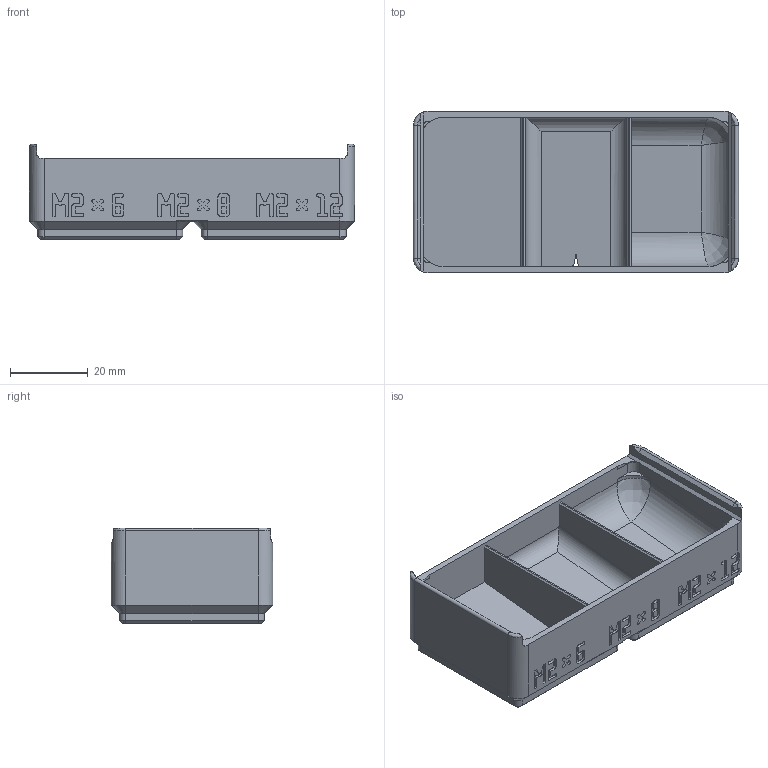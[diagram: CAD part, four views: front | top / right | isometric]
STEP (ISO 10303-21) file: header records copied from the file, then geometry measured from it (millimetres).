
FILE_DESCRIPTION(('Open CASCADE Model'),'2;1');
FILE_NAME('Open CASCADE Shape Model','2026-11-03T17:57:27',('Author'),( 'Open CASCADE'),'Open CASCADE STEP processor 8.0','build123d', 'Unknown');
FILE_SCHEMA(('AUTOMOTIVE_DESIGN { 1 0 10303 214 1 1 1 1 }'));
Products named in the file (1): COMPOUND
Bounding box: 83.5 x 41.5 x 24.55 mm (x, y, z)
Volume: 29619.6 mm3; surface area: 17274.6 mm2
Topology: 1 solids, 1 shells, 1520 faces, 4439 edges, 2932 vertices
Faces by surface type: plane 1450, cylinder 40, cone 24, bspline 6
Entity records: 106488 total; most frequent: CARTESIAN_POINT 23309, DIRECTION 13516, LINE 10129, VECTOR 10129, ORIENTED_EDGE 8874, PCURVE 8874, DEFINITIONAL_REPRESENTATION 8874, EDGE_CURVE 4437
